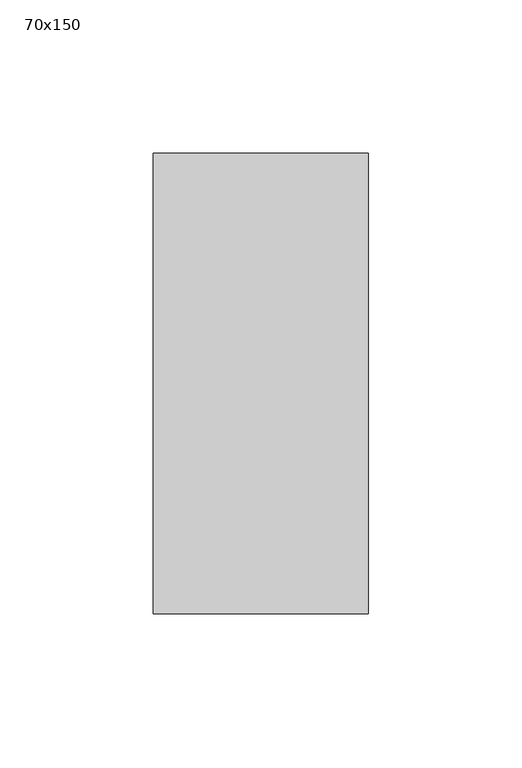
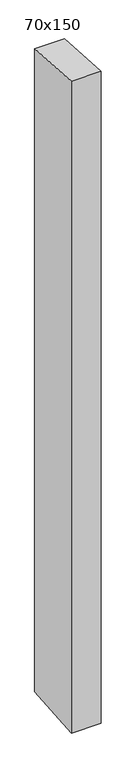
"""IFC4 building model written with IfcOpenShell, lengths in millimetres: member geometry, 長方形のマリオン : 70x150."""

from ifc_helpers import new_model, si_unit, frame, origin, place, context, project, spatial, polyline, outline, extrude, source, transform, mapped, element, save


def member_70x150_2ab56e3e(model_context):
    return source(origin(), model_context, "Body", "SweptSolid", [
        extrude(outline(polyline([(-75.0, 4.9317385), (75.0, -4.9317385), (75.0, -1612.9055464), (-75.0, -1625.0569542), (-75.0, 4.9317385)])), frame((-35.0, 0.0, 0.0), z_axis=(1.0, 0.0, 0.0), x_axis=(0.0, 1.0, 0.0)), (0.0, 0.0, 1.0), 70.0),
    ])


if __name__ == "__main__":
    model = new_model("IFC4")
    model_context = context("Model", 3, world=origin())
    ifc_project = project(units=[si_unit("LENGTHUNIT", "METRE", prefix="MILLI")], contexts=[model_context])
    site = spatial("IfcSite", under=ifc_project)
    building = spatial("IfcBuilding", under=site)
    placement = place(None, origin())
    member_70x150_shape = member_70x150_2ab56e3e(model_context)
    element("IfcMember", 1, ObjectType="長方形のマリオン : 70x150", at=placement, inside=building, context=model_context, shape_type="MappedRepresentation", body=[
        mapped(member_70x150_shape, transform((0.0, 0.0, 0.0), x_axis=(1.0, 0.0, 0.0), y_axis=(0.0, 1.0, 0.0), z_axis=(0.0, 0.0, 1.0))),
    ])
    save(model, "model.ifc")
